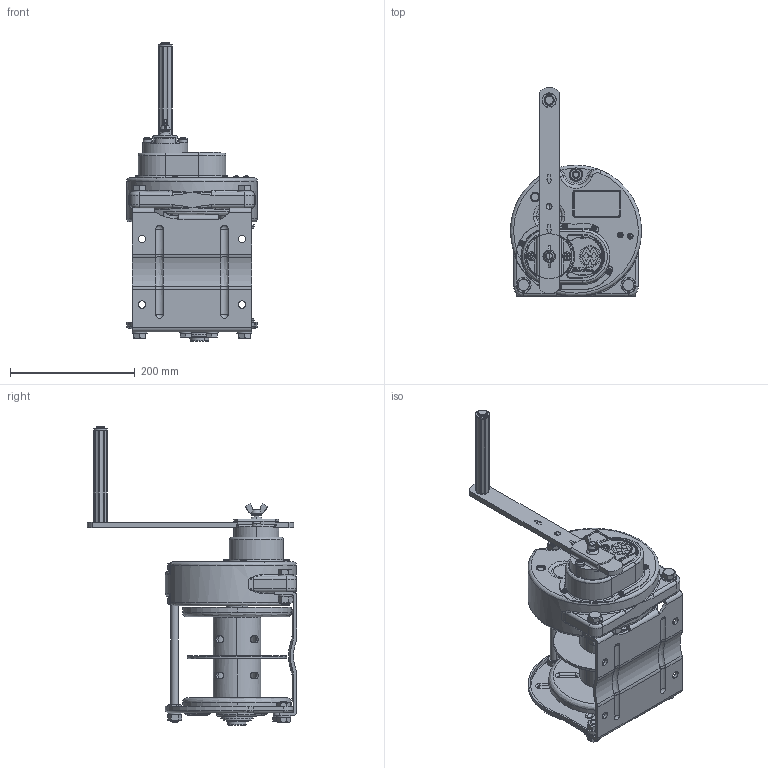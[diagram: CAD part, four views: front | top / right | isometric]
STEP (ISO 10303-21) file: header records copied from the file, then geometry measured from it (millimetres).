
FILE_DESCRIPTION( (''), '2;1');
FILE_NAME ('GM-5-NWD-SI.stp','2023-12-28T16:35:16',(''),(''),'spGate 19.8.2 (****-****-****-****)','','');
FILE_SCHEMA (('AUTOMOTIVE_DESIGN'));
Length unit declared in the file: millimetre
Products named in the file (3): Assembly; GM-5-NWD-SI-prt0; GM-5-NWD-SI-prt1
Assembly tree (2 placements, depth 2):
  Assembly
    GM-5-NWD-SI-prt0
    GM-5-NWD-SI-prt1
Bounding box: 209.96 x 335.43 x 478.1 mm (x, y, z)
Volume: 3919823.5 mm3; surface area: 694496.6 mm2
Topology: 2 solids, 2 shells, 2806 faces, 7223 edges, 4523 vertices
Faces by surface type: plane 1306, cylinder 903, bspline 519, sphere 78
Entity records: 154186 total; most frequent: CARTESIAN_POINT 30114, ORIENTED_EDGE 14350, DIRECTION 13801, COLOUR_RGB 9983, PRESENTATION_STYLE_ASSIGNMENT 9983, STYLED_ITEM 9983, EDGE_CURVE 7175, DRAUGHTING_PRE_DEFINED_CURVE_FONT 7175
